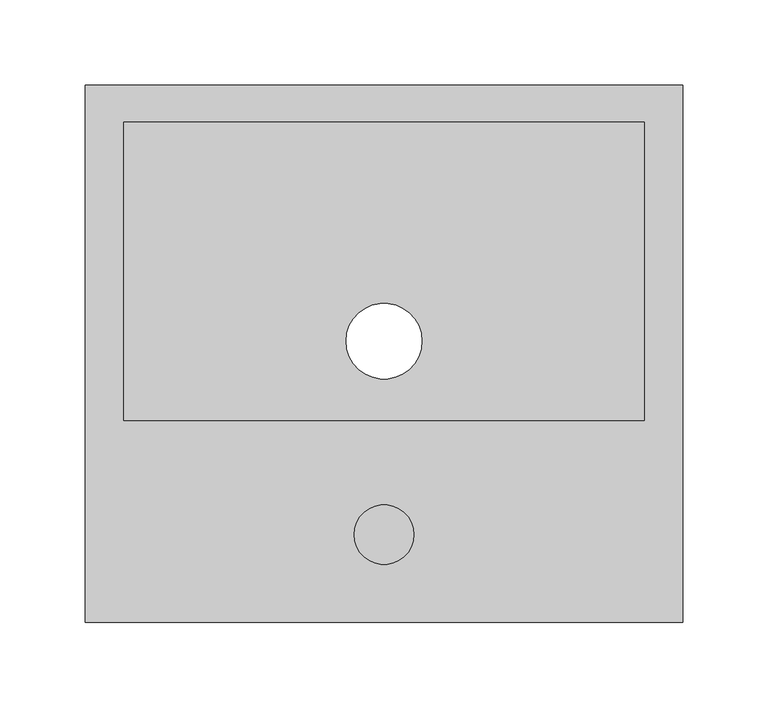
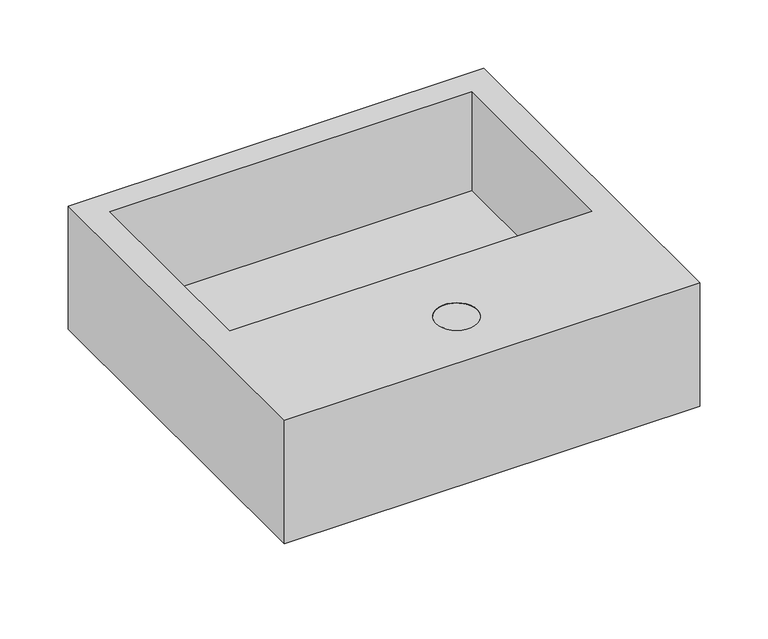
"""IFC4 building model written with IfcOpenShell, lengths in millimetres: flow terminal geometry, Deca_Cuba de Apoio Retangular_L7300 : L.7300.17_Branco Gelo GE17."""

import ifcopenshell
import ifcopenshell.guid

model = None  # the IFC model being written
_history = None  # IfcOwnerHistory: only IFC2X3 demands one
_inside = {}  # id of a spatial element -> (the spatial element, [elements in it])
_under = {}  # id of a project, library or spatial element -> (it, [spatial elements below it])
_declared = {}  # id of a project -> (the project, [libraries it declares])
_typed = {}  # id of a type object -> (the type object, [elements of that type])
_made_of = {}  # id of a material, layer set ... -> (it, [elements and type objects made of it])


def new_model(schema):
    """Start an empty IFC model of exactly this schema.

    Asked for "IFC4X3", IfcOpenShell would pick the latest addendum, in which some entities
    have other attributes; the version numbers below select the first issue.
    IFC2X3 requires an IfcOwnerHistory on every rooted entity: one is made here for all.
    """
    global model, _history
    if schema == "IFC4X3":
        model = ifcopenshell.file(schema_version=(4, 3, 0, 0))
    else:
        model = ifcopenshell.file(schema=schema)
    _inside.clear()
    _under.clear()
    _declared.clear()
    _typed.clear()
    _made_of.clear()
    _history = None
    if model.schema == "IFC2X3":
        org = make("IfcOrganization", Name="unknown")
        user = make(
            "IfcPersonAndOrganization",
            ThePerson=make("IfcPerson", FamilyName="unknown"),
            TheOrganization=org,
        )
        app = make(
            "IfcApplication",
            ApplicationDeveloper=org,
            Version="unknown",
            ApplicationFullName="unknown",
            ApplicationIdentifier="unknown",
        )
        _history = make(
            "IfcOwnerHistory",
            OwningUser=user,
            OwningApplication=app,
            ChangeAction="ADDED",
            CreationDate=0,
        )
    return model


def make(cls, **values):
    """One entity of the class cls with the attributes given. An attribute that is None is left unset."""
    return model.create_entity(
        cls, **{name: value for name, value in values.items() if value is not None}
    )


def rooted(cls, **values):
    """An entity with a GlobalId (a new one), such as an element, a storey or a relation."""
    return make(cls, GlobalId=ifcopenshell.guid.new(), OwnerHistory=_history, **values)


def si_unit(unit_type, name, prefix=None):
    """IfcSIUnit, for example si_unit("LENGTHUNIT", "METRE", prefix="MILLI")."""
    return make("IfcSIUnit", UnitType=unit_type, Prefix=prefix, Name=name)


def assignment(units):
    """IfcUnitAssignment: the units of a project."""
    return None if units is None else make("IfcUnitAssignment", Units=units)


def point(xyz):
    """IfcCartesianPoint."""
    return None if xyz is None else make("IfcCartesianPoint", Coordinates=xyz)


def direction(xyz):
    """IfcDirection."""
    return None if xyz is None else make("IfcDirection", DirectionRatios=xyz)


def frame(location, z_axis=None, x_axis=None):
    """IfcAxis2Placement3D, a coordinate frame: its origin and axes. An axis left out is left unset."""
    return make(
        "IfcAxis2Placement3D",
        Location=point(location),
        Axis=direction(z_axis),
        RefDirection=direction(x_axis),
    )


def frame_2d(location, x_axis=None):
    """IfcAxis2Placement2D, a coordinate frame in the plane: its origin and x axis."""
    return make(
        "IfcAxis2Placement2D", Location=point(location), RefDirection=direction(x_axis)
    )


def origin():
    """The frame at (0, 0, 0) with its axes left unset."""
    return frame((0.0, 0.0, 0.0))


def origin_with_axes():
    """The frame at (0, 0, 0) with the z axis (0, 0, 1) and the x axis (1, 0, 0) written out."""
    return frame((0.0, 0.0, 0.0), z_axis=(0.0, 0.0, 1.0), x_axis=(1.0, 0.0, 0.0))


def origin_2d():
    """The frame at (0, 0) in the plane with its x axis left unset."""
    return frame_2d((0.0, 0.0))


def place(relative_to, where):
    """IfcLocalPlacement: puts the frame where relative to a parent placement (None: the world)."""
    return make(
        "IfcLocalPlacement", PlacementRelTo=relative_to, RelativePlacement=where
    )


def context(
    kind, dimensions, precision=None, world=None, true_north=None, identifier=None
):
    """IfcGeometricRepresentationContext, for example the 3D "Model" context."""
    return make(
        "IfcGeometricRepresentationContext",
        ContextIdentifier=identifier,
        ContextType=kind,
        CoordinateSpaceDimension=dimensions,
        Precision=precision,
        WorldCoordinateSystem=world,
        TrueNorth=true_north,
    )


def project(units=None, contexts=None):
    """IfcProject with its units and contexts."""
    return rooted(
        "IfcProject",
        Name="project",
        RepresentationContexts=contexts,
        UnitsInContext=assignment(units),
    )


def spatial(cls, under=None, at=None, **own):
    """A site, building, storey or space (cls), placed at a placement, below another one or the project."""
    s = rooted(cls, ObjectPlacement=at, **own)
    if under is not None:
        _under.setdefault(under.id(), (under, []))[1].append(s)
    return s


def polyline(points):
    """IfcPolyline through the points."""
    return make("IfcPolyline", Points=[point(p) for p in points])


def circle_curve(where, radius):
    """IfcCircle in the frame where."""
    return make("IfcCircle", Position=where, Radius=radius)


def trimmed(basis, trim1, trim2, sense, master):
    """IfcTrimmedCurve: the piece of a basis curve between two trims."""
    return make(
        "IfcTrimmedCurve",
        BasisCurve=basis,
        Trim1=trim1,
        Trim2=trim2,
        SenseAgreement=sense,
        MasterRepresentation=master,
    )


def segment(curve, same_sense, transition):
    """IfcCompositeCurveSegment."""
    return make(
        "IfcCompositeCurveSegment",
        Transition=transition,
        SameSense=same_sense,
        ParentCurve=curve,
    )


def composite_curve(segments, self_intersect=None):
    """IfcCompositeCurve: segments joined end to end."""
    return make("IfcCompositeCurve", Segments=segments, SelfIntersect=self_intersect)


def outline(outer, holes=None, kind="AREA"):
    """IfcArbitraryClosedProfileDef: a profile drawn as a closed curve; with holes, ...WithVoids."""
    if holes is None:
        return make("IfcArbitraryClosedProfileDef", ProfileType=kind, OuterCurve=outer)
    return make(
        "IfcArbitraryProfileDefWithVoids",
        ProfileType=kind,
        OuterCurve=outer,
        InnerCurves=holes,
    )


def extrude(swept, where, along, depth):
    """IfcExtrudedAreaSolid: the profile swept, set in the frame where, extruded along a direction by depth."""
    return make(
        "IfcExtrudedAreaSolid",
        SweptArea=swept,
        Position=where,
        ExtrudedDirection=direction(along),
        Depth=depth,
    )


def shape(context_of_items, identifier, shape_type, items):
    """IfcShapeRepresentation: the items that make up one representation, for example the "Body"."""
    return make(
        "IfcShapeRepresentation",
        ContextOfItems=context_of_items,
        RepresentationIdentifier=identifier,
        RepresentationType=shape_type,
        Items=items,
    )


def source(mapping_origin, context_of_items, identifier, shape_type, items):
    """IfcRepresentationMap: a shape defined once, which mapped items show again and again."""
    return make(
        "IfcRepresentationMap",
        MappingOrigin=mapping_origin,
        MappedRepresentation=shape(context_of_items, identifier, shape_type, items),
    )


def transform(
    local_origin,
    x_axis=None,
    y_axis=None,
    z_axis=None,
    scale=None,
    scale2=None,
    scale3=None,
    uniform=True,
):
    """IfcCartesianTransformationOperator3D, or its non-uniform kind. x_axis, y_axis, z_axis: its Axis1, 2, 3."""
    if uniform:
        return make(
            "IfcCartesianTransformationOperator3D",
            Axis1=direction(x_axis),
            Axis2=direction(y_axis),
            LocalOrigin=point(local_origin),
            Scale=scale,
            Axis3=direction(z_axis),
        )
    return make(
        "IfcCartesianTransformationOperator3DnonUniform",
        Axis1=direction(x_axis),
        Axis2=direction(y_axis),
        LocalOrigin=point(local_origin),
        Scale=scale,
        Axis3=direction(z_axis),
        Scale2=scale2,
        Scale3=scale3,
    )


def mapped(mapping_source, mapping_target):
    """IfcMappedItem: shows the shape of a source again, moved by a transform."""
    return make(
        "IfcMappedItem", MappingSource=mapping_source, MappingTarget=mapping_target
    )


def made_of(thing, what):
    """Note that an element or type object is made of a material, layer set ...; save() writes the relation."""
    if what is not None:
        _made_of.setdefault(what.id(), (what, []))[1].append(thing)
    return thing


def element(
    cls,
    number,
    at=None,
    inside=None,
    cuts=None,
    type_object=None,
    material=None,
    context=None,
    identifier="Body",
    shape_type=None,
    held_by="IfcProductDefinitionShape",
    body=None,
    shapes=None,
    **own,
):
    """One element of the class cls, such as IfcWall. Its Tag is "e" and its number.

    at: its placement. inside: the storey or other place that contains it. cuts: it is an
    opening in that element (IfcRelVoidsElement). A single representation is given by context,
    identifier, shape_type and body (its items); several are given by shapes. held_by: the class
    of the entity that holds the representations. save() writes the other relations.
    """
    e = rooted(cls, Tag="e%d" % number, ObjectPlacement=at, **own)
    if body is not None:
        shapes = [shape(context, identifier, shape_type, body)]
    if shapes is not None:
        e.Representation = make(held_by, Representations=shapes)
    if inside is not None:
        _inside.setdefault(inside.id(), (inside, []))[1].append(e)
    if cuts is not None:
        rooted(
            "IfcRelVoidsElement", RelatingBuildingElement=cuts, RelatedOpeningElement=e
        )
    if type_object is not None:
        _typed.setdefault(type_object.id(), (type_object, []))[1].append(e)
    return made_of(e, material)


def aggregate(whole, parts):
    """IfcRelAggregates: a whole, such as a stair, and the parts it consists of."""
    return rooted("IfcRelAggregates", RelatingObject=whole, RelatedObjects=parts)


def save(model, path):
    """Write the relations noted so far, then the file.

    IfcRelAggregates (storeys below a building ...), IfcRelContainedInSpatialStructure (elements
    in a storey), IfcRelDefinesByType, IfcRelAssociatesMaterial and IfcRelDeclares: one each for
    every whole, place, type object, material and project.
    """
    for whole, parts in _under.values():
        aggregate(whole, parts)
    for where, things in _inside.values():
        rooted(
            "IfcRelContainedInSpatialStructure",
            RelatedElements=things,
            RelatingStructure=where,
        )
    for kind, things in _typed.values():
        rooted("IfcRelDefinesByType", RelatedObjects=things, RelatingType=kind)
    for what, things in _made_of.values():
        rooted("IfcRelAssociatesMaterial", RelatedObjects=things, RelatingMaterial=what)
    for by, libraries in _declared.values():
        rooted("IfcRelDeclares", RelatingContext=by, RelatedDefinitions=libraries)
    model.write(path)


def plane_surface(at):
    """IfcPlane: the flat surface through the origin of the frame at, square to its z axis."""
    return make("IfcPlane", Position=at)


def revolved_surface(curve, axis_point, axis_direction):
    """IfcSurfaceOfRevolution: the curve turned about the line through axis_point along axis_direction."""
    return make(
        "IfcSurfaceOfRevolution",
        SweptCurve=make("IfcArbitraryOpenProfileDef", ProfileType="CURVE", Curve=curve),
        AxisPosition=make("IfcAxis1Placement", Location=point(axis_point), Axis=direction(axis_direction)),
    )


def advanced_brep(points, edges, surfaces, faces):
    """IfcAdvancedBrep: a solid bounded by faces that lie on surfaces and meet in shared edges.

    An edge is (start, end): straight between two places in points (the first is 0);
    or (start, end, curve); or (start, end, curve, False) where it runs against its curve.
    A face is (place in surfaces, loops), or (place, loops, False) where it looks against
    its surface's normal. A loop lists edges by number (the first is 1), with a minus sign
    where the edge is run from its end to its start. The first loop is the outer one.
    """
    corners = [point(p) for p in points]
    vertices = [make("IfcVertexPoint", VertexGeometry=c) for c in corners]
    made = []
    for start, end, *more in edges:
        made.append(
            make(
                "IfcEdgeCurve",
                EdgeStart=vertices[start],
                EdgeEnd=vertices[end],
                EdgeGeometry=more[0] if more else make("IfcPolyline", Points=[corners[start], corners[end]]),
                SameSense=more[1] if len(more) > 1 else True,
            )
        )
    hull = []
    for where, loops, *sense in faces:
        bounds = []
        for j, loop in enumerate(loops):
            ring = [make("IfcOrientedEdge", EdgeElement=made[abs(k) - 1], Orientation=k > 0) for k in loop]
            bounds.append(
                make(
                    "IfcFaceOuterBound" if j == 0 else "IfcFaceBound",
                    Bound=make("IfcEdgeLoop", EdgeList=ring),
                    Orientation=True,
                )
            )
        hull.append(make("IfcAdvancedFace", Bounds=bounds, FaceSurface=surfaces[where], SameSense=sense[0] if sense else True))
    return make("IfcAdvancedBrep", Outer=make("IfcClosedShell", CfsFaces=hull))


def flow_terminal_e42b9071(model_context):
    return source(origin(), model_context, "Body", "SolidModel", [
        advanced_brep(
        [(175.0, -165.0, 110.0), (175.0, 150.0, 110.0), (-175.0, 150.0, 110.0), (-175.0, -165.0, 110.0), (-152.5, -46.5, 110.0), (-152.5, 128.5, 110.0), (152.5, 128.5, 110.0), (152.5, -46.5, 110.0), (17.5, -113.5, 110.0), (-17.5, -113.5, 110.0), (175.0, -165.0, 0.0), (-175.0, -165.0, 0.0), (-175.0, 150.0, 0.0), (175.0, 150.0, 0.0), (17.5, -113.5, 0.0), (-17.5, -113.5, 0.0), (-22.2, 0.0, 0.0), (22.2, 0.0, 0.0), (152.5, -46.5, 22.0), (152.5, 128.5, 22.0), (-152.5, 128.5, 22.0), (-152.5, -46.5, 22.0), (-22.2, 0.0, 22.0), (22.2, 0.0, 22.0)],
        [
            (0, 1),
            (1, 2),
            (2, 3),
            (3, 0),
            (4, 5),
            (5, 6),
            (6, 7),
            (7, 4),
            (8, 9, circle_curve(frame((0.0, -113.5, 110.0), z_axis=(0.0, 0.0, -1.0), x_axis=(1.0, 0.0, 0.0)), 17.5)),
            (9, 8, circle_curve(frame((0.0, -113.5, 110.0), z_axis=(0.0, 0.0, -1.0), x_axis=(1.0, 0.0, 0.0)), 17.5)),
            (10, 11),
            (11, 12),
            (12, 13),
            (13, 10),
            (14, 15, circle_curve(frame((0.0, -113.5, 0.0), z_axis=(0.0, 0.0, 1.0), x_axis=(1.0, 0.0, 0.0)), 17.5)),
            (15, 14, circle_curve(frame((0.0, -113.5, 0.0), z_axis=(0.0, 0.0, 1.0), x_axis=(1.0, 0.0, 0.0)), 17.5)),
            (16, 17, circle_curve(origin_with_axes(), 22.2)),
            (17, 16, circle_curve(origin_with_axes(), 22.2)),
            (3, 11),
            (10, 0),
            (2, 12),
            (1, 13),
            (18, 19),
            (19, 20),
            (20, 21),
            (21, 18),
            (22, 23, circle_curve(frame((0.0, 0.0, 22.0), z_axis=(0.0, 0.0, -1.0), x_axis=(1.0, 0.0, 0.0)), 22.2)),
            (23, 22, circle_curve(frame((0.0, 0.0, 22.0), z_axis=(0.0, 0.0, -1.0), x_axis=(1.0, 0.0, 0.0)), 22.2)),
            (21, 4),
            (7, 18),
            (20, 5),
            (19, 6),
            (9, 15),
            (14, 8),
            (16, 22),
            (23, 17),
        ],
        [
            plane_surface(frame((-175.0, -165.0, 110.0), z_axis=(0.0, 0.0, 1.0), x_axis=(-1.0, 0.0, 0.0))),
            plane_surface(frame((-175.0, -165.0, 0.0), z_axis=(0.0, 0.0, -1.0), x_axis=(1.0, 0.0, 0.0))),
            plane_surface(frame((175.0, -165.0, 110.0), z_axis=(0.0, -1.0, 0.0), x_axis=(0.0, 0.0, -1.0))),
            plane_surface(frame((-175.0, -165.0, 110.0), z_axis=(-1.0, 0.0, 0.0), x_axis=(0.0, 0.0, -1.0))),
            plane_surface(frame((-175.0, 150.0, 110.0), z_axis=(0.0, 1.0, 0.0), x_axis=(0.0, 0.0, -1.0))),
            plane_surface(frame((175.0, 150.0, 110.0), z_axis=(1.0, 0.0, 0.0), x_axis=(0.0, 0.0, -1.0))),
            plane_surface(frame((-152.5, -46.5, 22.0), z_axis=(0.0, 0.0, 1.0), x_axis=(1.0, 0.0, 0.0))),
            plane_surface(frame((152.5, -46.5, 110.0), z_axis=(0.0, 1.0, 0.0), x_axis=(0.0, 0.0, -1.0))),
            plane_surface(frame((-152.5, -46.5, 110.0), z_axis=(1.0, 0.0, 0.0), x_axis=(0.0, 0.0, -1.0))),
            plane_surface(frame((-152.5, 128.5, 110.0), z_axis=(0.0, -1.0, 0.0), x_axis=(0.0, 0.0, -1.0))),
            plane_surface(frame((152.5, 128.5, 110.0), z_axis=(-1.0, 0.0, 0.0), x_axis=(0.0, 0.0, -1.0))),
            revolved_surface(polyline([(17.5, -113.5, 0.0), (17.5, -113.5, 110.0)]), (0.0, -113.5, -790.0), (0.0, 0.0, -1.0)),
            revolved_surface(polyline([(22.2, 0.0, 0.0), (22.2, 0.0, 22.0)]), (0.0, 0.0, -790.0), (0.0, 0.0, -1.0)),
        ],
        [
            (0, [[1, 2, 3, 4], [5, 6, 7, 8], [9, 10]]),
            (1, [[11, 12, 13, 14], [15, 16], [17, 18]]),
            (2, [[19, -11, 20, -4]]),
            (3, [[21, -12, -19, -3]]),
            (4, [[22, -13, -21, -2]]),
            (5, [[-20, -14, -22, -1]]),
            (6, [[23, 24, 25, 26], [27, 28]]),
            (7, [[29, -8, 30, -26]]),
            (8, [[31, -5, -29, -25]]),
            (9, [[32, -6, -31, -24]]),
            (10, [[-30, -7, -32, -23]]),
            (11, [[33, -15, 34, -10]]),
            (11, [[-34, -16, -33, -9]]),
            (12, [[35, -28, 36, -17]]),
            (12, [[-36, -27, -35, -18]]),
        ],
    ),
        extrude(outline(composite_curve([segment(trimmed(circle_curve(origin_2d(), 30.584445), [point((-30.584445, 0.0))], [point((30.584445, 0.0))], False, "CARTESIAN"), True, "CONTINUOUS"), segment(trimmed(circle_curve(origin_2d(), 30.584445), [point((30.584445, 0.0))], [point((-30.584445, 0.0))], False, "CARTESIAN"), True, "CONTINUOUS")], self_intersect=False), holes=[composite_curve([segment(trimmed(circle_curve(origin_2d(), 22.2), [point((22.2, 0.0))], [point((-22.2, 0.0))], True, "CARTESIAN"), True, "CONTINUOUS"), segment(trimmed(circle_curve(origin_2d(), 22.2), [point((-22.2, 0.0))], [point((22.2, 0.0))], True, "CARTESIAN"), True, "CONTINUOUS")], self_intersect=False)]), frame((0.0, 0.0, -23.6043213), z_axis=(0.0, 0.0, 1.0), x_axis=(1.0, 0.0, 0.0)), (0.0, 0.0, 1.0), 23.6043213),
        extrude(outline(composite_curve([segment(trimmed(circle_curve(frame_2d((0.0, -113.5)), 17.5), [point((-17.5, -113.5))], [point((17.5, -113.5))], False, "CARTESIAN"), True, "CONTINUOUS"), segment(trimmed(circle_curve(frame_2d((0.0, -113.5)), 17.5), [point((17.5, -113.5))], [point((-17.5, -113.5))], False, "CARTESIAN"), True, "CONTINUOUS")], self_intersect=False)), frame((0.0, 0.0, 108.0), z_axis=(0.0, 0.0, 1.0), x_axis=(1.0, 0.0, 0.0)), (0.0, 0.0, 1.0), 2.0),
    ])


if __name__ == "__main__":
    model = new_model("IFC4")
    model_context = context("Model", 3, world=origin())
    ifc_project = project(units=[si_unit("LENGTHUNIT", "METRE", prefix="MILLI")], contexts=[model_context])
    site = spatial("IfcSite", under=ifc_project)
    building = spatial("IfcBuilding", under=site)
    placement = place(None, origin())
    flow_terminal_shape = flow_terminal_e42b9071(model_context)
    element("IfcFlowTerminal", 1, ObjectType="Deca_Cuba de Apoio Retangular_L7300 : L.7300.17_Branco Gelo GE17", at=placement, inside=building, context=model_context, shape_type="MappedRepresentation", body=[
        mapped(flow_terminal_shape, transform((0.0, 0.0, 0.0), x_axis=(1.0, 0.0, 0.0), y_axis=(0.0, 1.0, 0.0), z_axis=(0.0, 0.0, 1.0))),
    ])
    save(model, "model.ifc")
